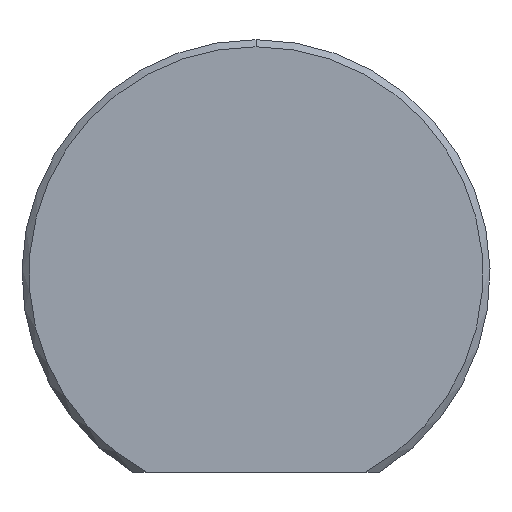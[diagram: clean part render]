
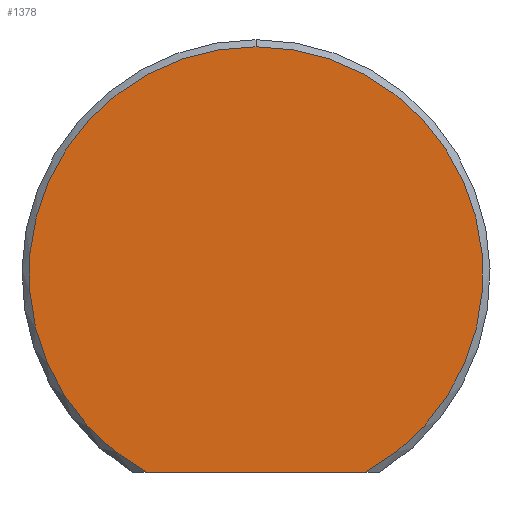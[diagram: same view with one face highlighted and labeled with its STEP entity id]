
A CAD part, front view. The second image highlights one B-rep face of the part: STEP entity #1378.
In plain terms, the highlighted planar face has unit normal (0, -1, 0).
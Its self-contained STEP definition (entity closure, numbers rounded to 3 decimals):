
#14 = EDGE_CURVE ( 'NONE', #1112, #1223, #1865, .T. ) ;
#74 = CARTESIAN_POINT ( 'NONE',  ( 3.873, 0., -7. ) ) ;
#100 = DIRECTION ( 'NONE',  ( -1., 0., 0. ) ) ;
#231 = EDGE_CURVE ( 'NONE', #352, #1223, #2183, .T. ) ;
#348 = AXIS2_PLACEMENT_3D ( 'NONE', #1215, #462, #1232 ) ;
#352 = VERTEX_POINT ( 'NONE', #645 ) ;
#462 = DIRECTION ( 'NONE',  ( 0., -1., 0. ) ) ;
#501 = PLANE ( 'NONE',  #2323 ) ;
#558 = FACE_OUTER_BOUND ( 'NONE', #1382, .T. ) ;
#645 = CARTESIAN_POINT ( 'NONE',  ( 0., 0., 8. ) ) ;
#753 = ORIENTED_EDGE ( 'NONE', *, *, #231, .T. ) ;
#820 = DIRECTION ( 'NONE',  ( 0., 0., 1. ) ) ;
#838 = DIRECTION ( 'NONE',  ( 0., -1., 0. ) ) ;
#1112 = VERTEX_POINT ( 'NONE', #74 ) ;
#1215 = CARTESIAN_POINT ( 'NONE',  ( 0., 0., 0. ) ) ;
#1223 = VERTEX_POINT ( 'NONE', #1593 ) ;
#1232 = DIRECTION ( 'NONE',  ( 0., 0., 1. ) ) ;
#1256 = DIRECTION ( 'NONE',  ( 0., 1., 0. ) ) ;
#1378 = ADVANCED_FACE ( 'NONE', ( #558 ), #501, .F. ) ;
#1382 = EDGE_LOOP ( 'NONE', ( #1943, #1980, #753 ) ) ;
#1389 = VECTOR ( 'NONE', #100, 1000. ) ;
#1427 = CARTESIAN_POINT ( 'NONE',  ( 0., 0., -7. ) ) ;
#1593 = CARTESIAN_POINT ( 'NONE',  ( -3.873, 0., -7. ) ) ;
#1599 = EDGE_CURVE ( 'NONE', #1112, #352, #2121, .T. ) ;
#1621 = DIRECTION ( 'NONE',  ( 0., 0., 1. ) ) ;
#1764 = CARTESIAN_POINT ( 'NONE',  ( 0., 0., 0. ) ) ;
#1865 = LINE ( 'NONE', #1427, #1389 ) ;
#1905 = AXIS2_PLACEMENT_3D ( 'NONE', #1764, #838, #820 ) ;
#1943 = ORIENTED_EDGE ( 'NONE', *, *, #14, .F. ) ;
#1980 = ORIENTED_EDGE ( 'NONE', *, *, #1599, .T. ) ;
#2004 = CARTESIAN_POINT ( 'NONE',  ( 0., 0., 0. ) ) ;
#2121 = CIRCLE ( 'NONE', #1905, 8. ) ;
#2183 = CIRCLE ( 'NONE', #348, 8. ) ;
#2323 = AXIS2_PLACEMENT_3D ( 'NONE', #2004, #1256, #1621 ) ;
